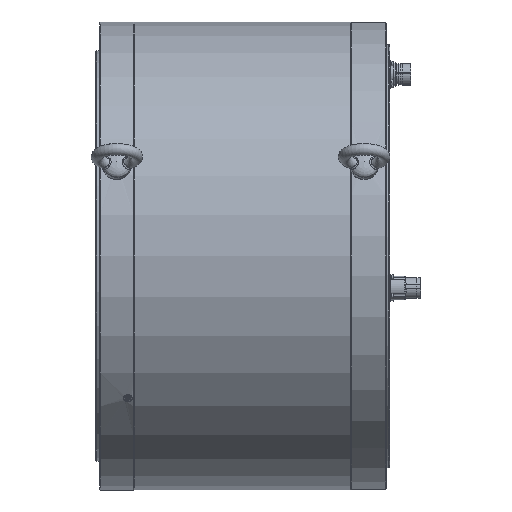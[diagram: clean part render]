
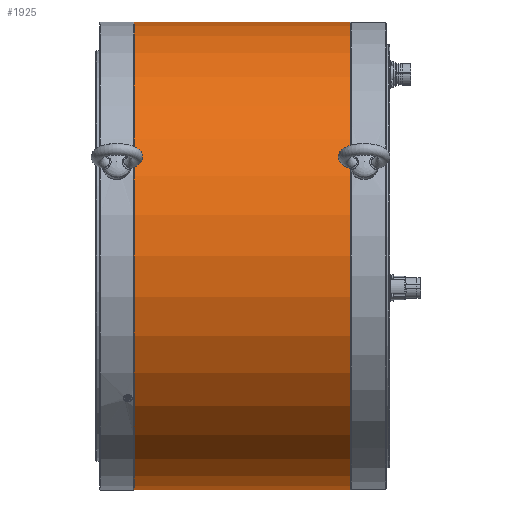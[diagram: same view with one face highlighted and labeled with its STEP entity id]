
A CAD part, front view. The second image highlights one B-rep face of the part: STEP entity #1925.
In plain terms, the highlighted cylindrical face has radius 245 mm (diameter 490 mm), a full revolution.
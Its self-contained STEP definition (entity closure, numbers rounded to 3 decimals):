
#1925 = ADVANCED_FACE( '', ( #4128, #4129 ), #4130, .T. );
#4128 = FACE_OUTER_BOUND( '', #7224, .T. );
#4129 = FACE_OUTER_BOUND( '', #7225, .T. );
#4130 = CYLINDRICAL_SURFACE( '', #7226, 245. );
#7224 = EDGE_LOOP( '', ( #11333 ) );
#7225 = EDGE_LOOP( '', ( #11334 ) );
#7226 = AXIS2_PLACEMENT_3D( '', #11335, #11336, #11337 );
#11333 = ORIENTED_EDGE( '', *, *, #13833, .T. );
#11334 = ORIENTED_EDGE( '', *, *, #14715, .T. );
#11335 = CARTESIAN_POINT( '', ( -60., 0., 0. ) );
#11336 = DIRECTION( '', ( 1., 0., 0. ) );
#11337 = DIRECTION( '', ( 0., 0., 1. ) );
#13833 = EDGE_CURVE( '', #16478, #16478, #16479, .F. );
#14715 = EDGE_CURVE( '', #17834, #17834, #17835, .F. );
#16478 = VERTEX_POINT( '', #18918 );
#16479 = CIRCLE( '', #18919, 245. );
#17834 = VERTEX_POINT( '', #21403 );
#17835 = CIRCLE( '', #21404, 245. );
#18918 = CARTESIAN_POINT( '', ( 0.5, 0., 245. ) );
#18919 = AXIS2_PLACEMENT_3D( '', #23226, #23227, #23228 );
#21403 = CARTESIAN_POINT( '', ( 226.5, 0., -245. ) );
#21404 = AXIS2_PLACEMENT_3D( '', #24674, #24675, #24676 );
#23226 = CARTESIAN_POINT( '', ( 0.5, 0., 0. ) );
#23227 = DIRECTION( '', ( -1., 0., 0. ) );
#23228 = DIRECTION( '', ( 0., 0., 1. ) );
#24674 = CARTESIAN_POINT( '', ( 226.5, 0., 0. ) );
#24675 = DIRECTION( '', ( 1., 0., 0. ) );
#24676 = DIRECTION( '', ( 0., 0., -1. ) );
